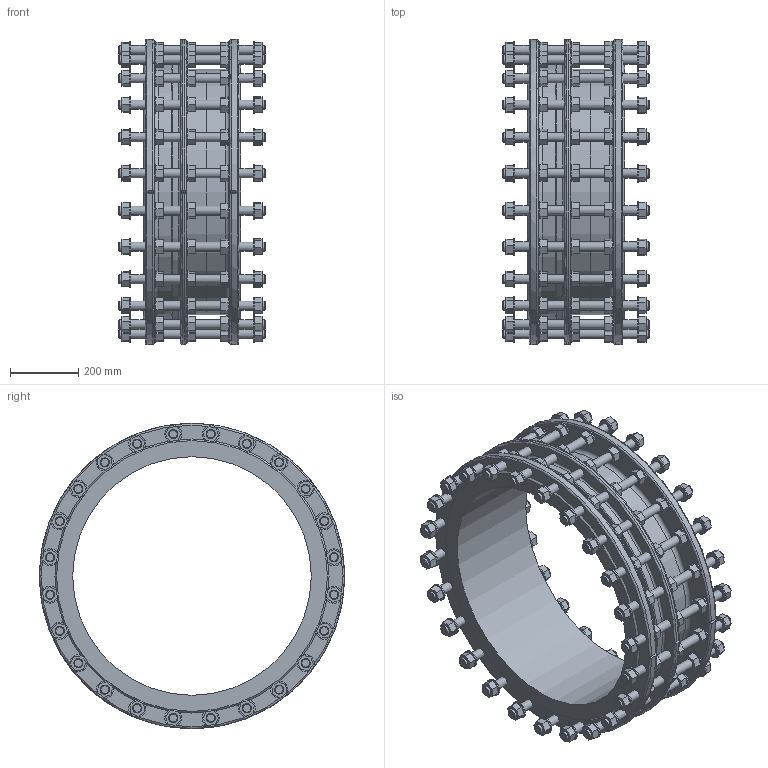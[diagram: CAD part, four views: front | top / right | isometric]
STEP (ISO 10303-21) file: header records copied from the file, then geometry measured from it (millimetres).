
FILE_DESCRIPTION (( 'STEP AP203' ), '1' );
FILE_NAME ('O_265_911_DN700_0XXXXX01_L=285_REV01.step', '2024-12-12T08:24:17', ( '' ), ( '' ), 'SwSTEP 2.0', 'SolidWorks 2022', '' );
FILE_SCHEMA (( 'CONFIG_CONTROL_DESIGN' ));
Length unit declared in the file: millimetre
Products named in the file (1): O_265_911_DN700_0XXXXX01_L=285_REV01
Bounding box: 430 x 894.96 x 895 mm (x, y, z)
Volume: 36256874.5 mm3; surface area: 3514136.3 mm2
Topology: 1 solids, 1 shells, 1525 faces, 3619 edges, 2371 vertices
Faces by surface type: plane 1188, cylinder 276, cone 51, torus 10
Full cylindrical faces by diameter (mm): 27 x144, 50 x120, 700 x1, 720 x2, 760 x1
Entity records: 41248 total; most frequent: CARTESIAN_POINT 7265, DIRECTION 6993, ORIENTED_EDGE 6274, EDGE_CURVE 3137, AXIS2_PLACEMENT_3D 2354, VECTOR 2285, LINE 2285, EDGE_LOOP 2227
